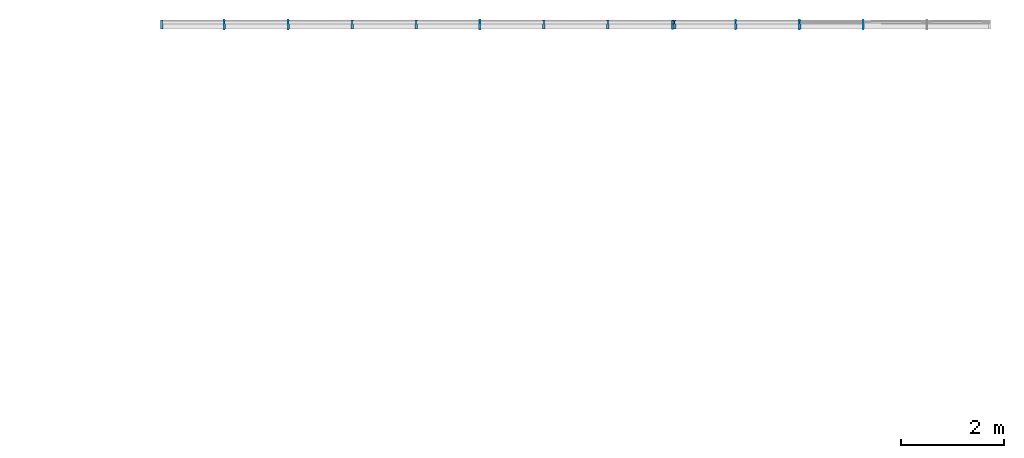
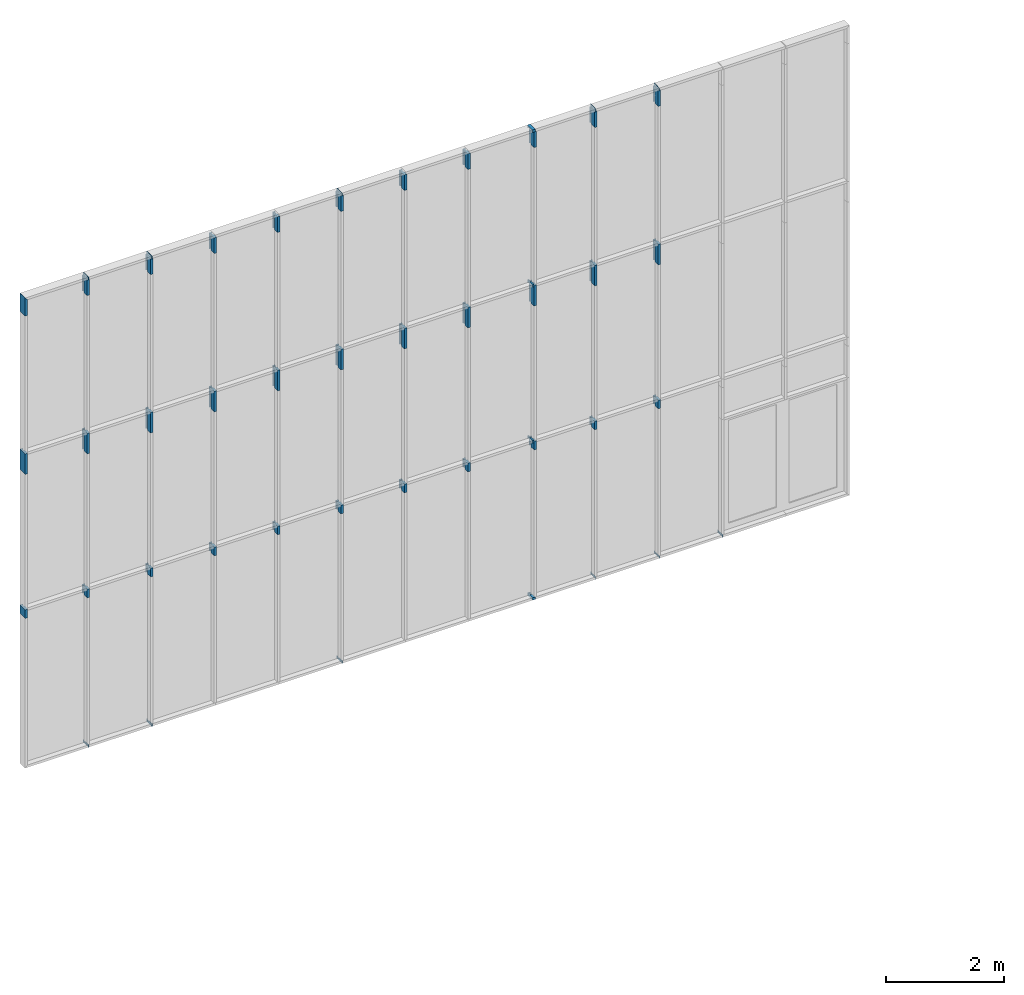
# One storey, part 19 of 387: 48 members, 1 element without a shape of its own.
"""IFC2X3 building model written with IfcOpenShell, lengths in millimetres."""

import ifcopenshell
import ifcopenshell.guid

model = None  # the IFC model being written
_history = None  # IfcOwnerHistory: only IFC2X3 demands one
_inside = {}  # id of a spatial element -> (the spatial element, [elements in it])
_under = {}  # id of a project, library or spatial element -> (it, [spatial elements below it])
_declared = {}  # id of a project -> (the project, [libraries it declares])
_typed = {}  # id of a type object -> (the type object, [elements of that type])
_made_of = {}  # id of a material, layer set ... -> (it, [elements and type objects made of it])


def new_model(schema):
    """Start an empty IFC model of exactly this schema.

    Asked for "IFC4X3", IfcOpenShell would pick the latest addendum, in which some entities
    have other attributes; the version numbers below select the first issue.
    IFC2X3 requires an IfcOwnerHistory on every rooted entity: one is made here for all.
    """
    global model, _history
    if schema == "IFC4X3":
        model = ifcopenshell.file(schema_version=(4, 3, 0, 0))
    else:
        model = ifcopenshell.file(schema=schema)
    _inside.clear()
    _under.clear()
    _declared.clear()
    _typed.clear()
    _made_of.clear()
    _history = None
    if model.schema == "IFC2X3":
        org = make("IfcOrganization", Name="unknown")
        user = make(
            "IfcPersonAndOrganization",
            ThePerson=make("IfcPerson", FamilyName="unknown"),
            TheOrganization=org,
        )
        app = make(
            "IfcApplication",
            ApplicationDeveloper=org,
            Version="unknown",
            ApplicationFullName="unknown",
            ApplicationIdentifier="unknown",
        )
        _history = make(
            "IfcOwnerHistory",
            OwningUser=user,
            OwningApplication=app,
            ChangeAction="ADDED",
            CreationDate=0,
        )
    return model


def make(cls, **values):
    """One entity of the class cls with the attributes given. An attribute that is None is left unset."""
    return model.create_entity(
        cls, **{name: value for name, value in values.items() if value is not None}
    )


def entity(cls, *values):
    """Any entity or typed value of the class cls, its attributes in the order of the schema. None: left unset."""
    e = model.create_entity(cls)
    for i, value in enumerate(values):
        if value is not None:
            e[i] = value
    return e


def rooted(cls, **values):
    """An entity with a GlobalId (a new one), such as an element, a storey or a relation."""
    return make(cls, GlobalId=ifcopenshell.guid.new(), OwnerHistory=_history, **values)


def si_unit(unit_type, name, prefix=None):
    """IfcSIUnit, for example si_unit("LENGTHUNIT", "METRE", prefix="MILLI")."""
    return make("IfcSIUnit", UnitType=unit_type, Prefix=prefix, Name=name)


def converted_unit(unit_type, name, factor, base, dimensions=None, offset=None):
    """IfcConversionBasedUnit, such as the inch: factor (a typed value) times the base unit."""
    return make(
        "IfcConversionBasedUnit"
        if offset is None
        else "IfcConversionBasedUnitWithOffset",
        ConversionOffset=offset,
        Dimensions=None
        if dimensions is None
        else entity("IfcDimensionalExponents", *dimensions),
        UnitType=unit_type,
        Name=name,
        ConversionFactor=make(
            "IfcMeasureWithUnit", ValueComponent=factor, UnitComponent=base
        ),
    )


def derived_unit(unit_type, elements):
    """IfcDerivedUnit: a product of units, each with its exponent."""
    return make(
        "IfcDerivedUnit",
        Elements=[
            make("IfcDerivedUnitElement", Unit=unit, Exponent=power)
            for unit, power in elements
        ],
        UnitType=unit_type,
    )


def money_unit(currency):
    """IfcMonetaryUnit."""
    return make("IfcMonetaryUnit", Currency=currency)


def assignment(units):
    """IfcUnitAssignment: the units of a project."""
    return None if units is None else make("IfcUnitAssignment", Units=units)


def point(xyz):
    """IfcCartesianPoint."""
    return None if xyz is None else make("IfcCartesianPoint", Coordinates=xyz)


def direction(xyz):
    """IfcDirection."""
    return None if xyz is None else make("IfcDirection", DirectionRatios=xyz)


def frame(location, z_axis=None, x_axis=None):
    """IfcAxis2Placement3D, a coordinate frame: its origin and axes. An axis left out is left unset."""
    return make(
        "IfcAxis2Placement3D",
        Location=point(location),
        Axis=direction(z_axis),
        RefDirection=direction(x_axis),
    )


def origin_with_axes():
    """The frame at (0, 0, 0) with the z axis (0, 0, 1) and the x axis (1, 0, 0) written out."""
    return frame((0.0, 0.0, 0.0), z_axis=(0.0, 0.0, 1.0), x_axis=(1.0, 0.0, 0.0))


def place(relative_to, where):
    """IfcLocalPlacement: puts the frame where relative to a parent placement (None: the world)."""
    return make(
        "IfcLocalPlacement", PlacementRelTo=relative_to, RelativePlacement=where
    )


def context(
    kind, dimensions, precision=None, world=None, true_north=None, identifier=None
):
    """IfcGeometricRepresentationContext, for example the 3D "Model" context."""
    return make(
        "IfcGeometricRepresentationContext",
        ContextIdentifier=identifier,
        ContextType=kind,
        CoordinateSpaceDimension=dimensions,
        Precision=precision,
        WorldCoordinateSystem=world,
        TrueNorth=true_north,
    )


def subcontext(parent, identifier, kind, view, scale=None):
    """IfcGeometricRepresentationSubContext, for example "Body" below "Model"."""
    return make(
        "IfcGeometricRepresentationSubContext",
        ContextIdentifier=identifier,
        ContextType=kind,
        ParentContext=parent,
        TargetScale=scale,
        TargetView=view,
    )


def project(units=None, contexts=None):
    """IfcProject with its units and contexts."""
    return rooted(
        "IfcProject",
        Name="project",
        RepresentationContexts=contexts,
        UnitsInContext=assignment(units),
    )


def spatial(cls, under=None, at=None, **own):
    """A site, building, storey or space (cls), placed at a placement, below another one or the project."""
    s = rooted(cls, ObjectPlacement=at, **own)
    if under is not None:
        _under.setdefault(under.id(), (under, []))[1].append(s)
    return s


def polyline(points):
    """IfcPolyline through the points."""
    return make("IfcPolyline", Points=[point(p) for p in points])


def outline(outer, holes=None, kind="AREA"):
    """IfcArbitraryClosedProfileDef: a profile drawn as a closed curve; with holes, ...WithVoids."""
    if holes is None:
        return make("IfcArbitraryClosedProfileDef", ProfileType=kind, OuterCurve=outer)
    return make(
        "IfcArbitraryProfileDefWithVoids",
        ProfileType=kind,
        OuterCurve=outer,
        InnerCurves=holes,
    )


def extrude(swept, where, along, depth):
    """IfcExtrudedAreaSolid: the profile swept, set in the frame where, extruded along a direction by depth."""
    return make(
        "IfcExtrudedAreaSolid",
        SweptArea=swept,
        Position=where,
        ExtrudedDirection=direction(along),
        Depth=depth,
    )


def clip(a, b, op="DIFFERENCE"):
    """IfcBooleanClippingResult: the solid a cut by the half space b."""
    return make(
        "IfcBooleanClippingResult", Operator=op, FirstOperand=a, SecondOperand=b
    )


def halfspace(plane, agree):
    """IfcHalfSpaceSolid: all space on one side of the plane z = 0 of the frame plane."""
    return make(
        "IfcHalfSpaceSolid",
        BaseSurface=make("IfcPlane", Position=plane),
        AgreementFlag=agree,
    )


def shape(context_of_items, identifier, shape_type, items):
    """IfcShapeRepresentation: the items that make up one representation, for example the "Body"."""
    return make(
        "IfcShapeRepresentation",
        ContextOfItems=context_of_items,
        RepresentationIdentifier=identifier,
        RepresentationType=shape_type,
        Items=items,
    )


def material(Name=None, Category=None):
    """IfcMaterial."""
    return make("IfcMaterial", Name=Name, Category=Category)


def made_of(thing, what):
    """Note that an element or type object is made of a material, layer set ...; save() writes the relation."""
    if what is not None:
        _made_of.setdefault(what.id(), (what, []))[1].append(thing)
    return thing


def type_object(cls, material=None, **own):
    """A type object (cls), such as IfcWallType, which elements share."""
    return made_of(rooted(cls, **own), material)


def element(
    cls,
    number,
    at=None,
    inside=None,
    cuts=None,
    type_object=None,
    material=None,
    context=None,
    identifier="Body",
    shape_type=None,
    held_by="IfcProductDefinitionShape",
    body=None,
    shapes=None,
    **own,
):
    """One element of the class cls, such as IfcWall. Its Tag is "e" and its number.

    at: its placement. inside: the storey or other place that contains it. cuts: it is an
    opening in that element (IfcRelVoidsElement). A single representation is given by context,
    identifier, shape_type and body (its items); several are given by shapes. held_by: the class
    of the entity that holds the representations. save() writes the other relations.
    """
    e = rooted(cls, Tag="e%d" % number, ObjectPlacement=at, **own)
    if body is not None:
        shapes = [shape(context, identifier, shape_type, body)]
    if shapes is not None:
        e.Representation = make(held_by, Representations=shapes)
    if inside is not None:
        _inside.setdefault(inside.id(), (inside, []))[1].append(e)
    if cuts is not None:
        rooted(
            "IfcRelVoidsElement", RelatingBuildingElement=cuts, RelatedOpeningElement=e
        )
    if type_object is not None:
        _typed.setdefault(type_object.id(), (type_object, []))[1].append(e)
    return made_of(e, material)


def aggregate(whole, parts):
    """IfcRelAggregates: a whole, such as a stair, and the parts it consists of."""
    return rooted("IfcRelAggregates", RelatingObject=whole, RelatedObjects=parts)


def save(model, path):
    """Write the relations noted so far, then the file.

    IfcRelAggregates (storeys below a building ...), IfcRelContainedInSpatialStructure (elements
    in a storey), IfcRelDefinesByType, IfcRelAssociatesMaterial and IfcRelDeclares: one each for
    every whole, place, type object, material and project.
    """
    for whole, parts in _under.values():
        aggregate(whole, parts)
    for where, things in _inside.values():
        rooted(
            "IfcRelContainedInSpatialStructure",
            RelatedElements=things,
            RelatingStructure=where,
        )
    for kind, things in _typed.values():
        rooted("IfcRelDefinesByType", RelatedObjects=things, RelatingType=kind)
    for what, things in _made_of.values():
        rooted("IfcRelAssociatesMaterial", RelatedObjects=things, RelatingMaterial=what)
    for by, libraries in _declared.values():
        rooted("IfcRelDeclares", RelatingContext=by, RelatedDefinitions=libraries)
    model.write(path)


model = new_model("IFC2X3")

# Units and contexts
model_context = context("Model", 3, precision=0.01, world=origin_with_axes(), true_north=direction((0.0, 1.0)))
body_context = subcontext(model_context, "Body", "Model", "MODEL_VIEW")
ifc_project = project(units=[si_unit("LENGTHUNIT", "METRE", prefix="MILLI"), si_unit("AREAUNIT", "SQUARE_METRE"), si_unit("VOLUMEUNIT", "CUBIC_METRE"), converted_unit("PLANEANGLEUNIT", "DEGREE", entity("IfcPlaneAngleMeasure", 0.0174532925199), si_unit("PLANEANGLEUNIT", "RADIAN"), dimensions=[0, 0, 0, 0, 0, 0, 0]), si_unit("SOLIDANGLEUNIT", "STERADIAN"), money_unit("EUR"), converted_unit("TIMEUNIT", "Year", entity("IfcTimeMeasure", 31556926.0), si_unit("TIMEUNIT", "SECOND"), dimensions=[0, 0, 1, 0, 0, 0, 0]), si_unit("MASSUNIT", "GRAM", prefix="KILO"), si_unit("THERMODYNAMICTEMPERATUREUNIT", "DEGREE_CELSIUS"), si_unit("LUMINOUSINTENSITYUNIT", "LUMEN"), si_unit("ENERGYUNIT", "JOULE", prefix="MEGA"), derived_unit("THERMALCONDUCTANCEUNIT", [(si_unit("POWERUNIT", "WATT"), 1), (si_unit("LENGTHUNIT", "METRE"), -1), (si_unit("THERMODYNAMICTEMPERATUREUNIT", "KELVIN"), -1)]), derived_unit("SPECIFICHEATCAPACITYUNIT", [(si_unit("ENERGYUNIT", "JOULE"), 1), (si_unit("MASSUNIT", "GRAM", prefix="KILO"), -1), (si_unit("THERMODYNAMICTEMPERATUREUNIT", "KELVIN"), -1)]), derived_unit("MASSDENSITYUNIT", [(si_unit("MASSUNIT", "GRAM", prefix="KILO"), 1), (si_unit("VOLUMEUNIT", "CUBIC_METRE"), -1)])], contexts=[model_context])

# Site, building, storey
site_placement = place(None, origin_with_axes())
site = spatial("IfcSite", under=ifc_project, at=site_placement, Name="Puškini 31, Narva", CompositionType="ELEMENT")
building_placement = place(site_placement, origin_with_axes())
building = spatial("IfcBuilding", under=site, at=building_placement, Name="Narva Riigigümnaasium", CompositionType="ELEMENT")
storey_placement = place(building_placement, frame((0.0, 0.0, 2640.0), z_axis=(0.0, 0.0, 1.0), x_axis=(1.0, 0.0, 0.0)))
storey = spatial("IfcBuildingStorey", under=building, at=storey_placement, Name="2.korrus +2.64", CompositionType="ELEMENT", Elevation=2640.0)

# Curtain wall, members
curtain_wall_type = type_object("IfcCurtainWallType", Name="Curtain Wall Type", PredefinedType="NOTDEFINED")
curtain_wall_placement = place(storey_placement, frame((50893.5555569, 254360.0, -2029.99998222), z_axis=(0.0, 0.0, 1.0), x_axis=(1.0, 0.0, 0.0)))
curtain_wall = element("IfcCurtainWall", 1, at=curtain_wall_placement, inside=storey, type_object=curtain_wall_type, Name="G-KLF-06")
ifc_material = material(Name="ET-04_Alumiinium")
member_type_1 = type_object("IfcMemberType", Name="Mullion Frame 50 x 176", PredefinedType="MULLION")
member_1_placement = place(curtain_wall_placement, frame((-3268.55557739, 0.0, 9389.99997589), z_axis=(7.38349911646e-08, 0.0, 1.0), x_axis=(1.0, 0.0, -7.38349911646e-08)))
member_1 = element("IfcMember", 2, at=member_1_placement, type_object=member_type_1, material=ifc_material, Name="klaasfassaadi raam", ObjectType="MULLION", context=body_context, shape_type="SweptSolid", body=[
    extrude(outline(polyline([(-10.0, -29.0), (-25.0, -29.0), (-25.0, -130.0), (25.0, -130.0), (25.0, -29.0), (10.0, -29.0), (10.0, 29.0), (25.0, 29.0), (25.0, 46.0), (-25.0, 46.0), (-25.0, 29.0), (-10.0, 29.0), (-10.0, -29.0)])), frame((0.0, 0.0, -1.84587634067e-06), z_axis=(0.0, 0.0, 1.0), x_axis=(1.0, 0.0, 7.38349911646e-08)), (0.0, 0.0, 1.0), 325.000033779),
])
member_2_placement = place(curtain_wall_placement, frame((-3268.55555892, 0.0, 6099.99997589), z_axis=(-4.33065213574e-08, 0.0, 1.0), x_axis=(1.0, 0.0, 4.33065213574e-08)))
member_2 = element("IfcMember", 3, at=member_2_placement, type_object=member_type_1, material=ifc_material, Name="klaasfassaadi raam", ObjectType="MULLION", context=body_context, shape_type="SweptSolid", body=[
    extrude(outline(polyline([(-10.0, -29.0), (-25.0, -29.0), (-25.0, -130.0), (25.0, -130.0), (25.0, -29.0), (10.0, -29.0), (10.0, 29.0), (25.0, 29.0), (25.0, 46.0), (-25.0, 46.0), (-25.0, 29.0), (-10.0, 29.0), (-10.0, -29.0)])), frame((0.0, 0.0, -1.08266284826e-06), z_axis=(0.0, 0.0, 1.0), x_axis=(1.0, 0.0, -4.33065213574e-08)), (0.0, 0.0, 1.0), 426.666705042),
])
member_3_placement = place(curtain_wall_placement, frame((-3268.55556541, 0.0, 3109.99997589), z_axis=(3.64074463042e-08, 0.0, 1.0), x_axis=(1.0, 0.0, -3.64074463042e-08)))
member_3 = element("IfcMember", 4, at=member_3_placement, type_object=member_type_1, material=ifc_material, Name="klaasfassaadi raam", ObjectType="MULLION", context=body_context, shape_type="SweptSolid", body=[
    extrude(outline(polyline([(-10.0, -29.0), (-25.0, -29.0), (-25.0, -130.0), (25.0, -130.0), (25.0, -29.0), (10.0, -29.0), (10.0, 29.0), (25.0, 29.0), (25.0, 46.0), (-25.0, 46.0), (-25.0, 29.0), (-10.0, 29.0), (-10.0, -29.0)])), frame((0.0, 0.0, -9.90373560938e-07), z_axis=(0.0, 0.0, 1.0), x_axis=(1.0, 0.0, 3.64074463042e-08)), (0.0, 0.0, 1.0), 178.333366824),
])
member_4_placement = place(curtain_wall_placement, frame((-8307.55555633, 0.0, 9389.99997589), z_axis=(0.0, 0.0, 1.0), x_axis=(1.0, 0.0, 0.0)))
member_4 = element("IfcMember", 5, at=member_4_placement, type_object=member_type_1, material=ifc_material, Name="klaasfassaadi raam", ObjectType="MULLION", context=body_context, shape_type="SweptSolid", body=[
    extrude(outline(polyline([(-10.0, -29.0), (-25.0, -29.0), (-25.0, -130.0), (25.0, -130.0), (25.0, -29.0), (10.0, -29.0), (10.0, 29.0), (25.0, 29.0), (25.0, 46.0), (-25.0, 46.0), (-25.0, 29.0), (-10.0, 29.0), (-10.0, -29.0)])), frame((0.0, 0.0, -1.84587456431e-06), z_axis=(0.0, 0.0, 1.0), x_axis=(1.0, 0.0, 0.0)), (0.0, 0.0, 1.0), 325.000033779),
])
member_5_placement = place(curtain_wall_placement, frame((-9553.55555647, 0.0, 9389.99997589), z_axis=(0.0, 0.0, 1.0), x_axis=(1.0, 0.0, 0.0)))
member_5 = element("IfcMember", 6, at=member_5_placement, type_object=member_type_1, material=ifc_material, Name="klaasfassaadi raam", ObjectType="MULLION", context=body_context, shape_type="SweptSolid", body=[
    extrude(outline(polyline([(-10.0, -29.0), (-25.0, -29.0), (-25.0, -130.0), (25.0, -130.0), (25.0, -29.0), (10.0, -29.0), (10.0, 29.0), (25.0, 29.0), (25.0, 46.0), (-25.0, 46.0), (-25.0, 29.0), (-10.0, 29.0), (-10.0, -29.0)])), frame((0.0, 0.0, -1.84587456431e-06), z_axis=(0.0, 0.0, 1.0), x_axis=(1.0, 0.0, 0.0)), (0.0, 0.0, 1.0), 325.000033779),
])
member_6_placement = place(curtain_wall_placement, frame((-8307.55555633, 0.0, 3109.99997589), z_axis=(0.0, 0.0, 1.0), x_axis=(1.0, 0.0, 0.0)))
member_6 = element("IfcMember", 7, at=member_6_placement, type_object=member_type_1, material=ifc_material, Name="klaasfassaadi raam", ObjectType="MULLION", context=body_context, shape_type="SweptSolid", body=[
    extrude(outline(polyline([(-10.0, -29.0), (-25.0, -29.0), (-25.0, -130.0), (25.0, -130.0), (25.0, -29.0), (10.0, -29.0), (10.0, 29.0), (25.0, 29.0), (25.0, 46.0), (-25.0, 46.0), (-25.0, 29.0), (-10.0, 29.0), (-10.0, -29.0)])), frame((0.0, 0.0, -9.90373116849e-07), z_axis=(0.0, 0.0, 1.0), x_axis=(1.0, 0.0, 0.0)), (0.0, 0.0, 1.0), 178.333366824),
])
member_7_placement = place(curtain_wall_placement, frame((-9553.55555647, 0.0, 3109.99997589), z_axis=(0.0, 0.0, 1.0), x_axis=(1.0, 0.0, 0.0)))
member_7 = element("IfcMember", 8, at=member_7_placement, type_object=member_type_1, material=ifc_material, Name="klaasfassaadi raam", ObjectType="MULLION", context=body_context, shape_type="SweptSolid", body=[
    extrude(outline(polyline([(-10.0, -29.0), (-25.0, -29.0), (-25.0, -130.0), (25.0, -130.0), (25.0, -29.0), (10.0, -29.0), (10.0, 29.0), (25.0, 29.0), (25.0, 46.0), (-25.0, 46.0), (-25.0, 29.0), (-10.0, 29.0), (-10.0, -29.0)])), frame((0.0, 0.0, -9.90373116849e-07), z_axis=(0.0, 0.0, 1.0), x_axis=(1.0, 0.0, 0.0)), (0.0, 0.0, 1.0), 178.333366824),
])
member_8_placement = place(curtain_wall_placement, frame((-8307.55555633, 0.0, 6099.99997589), z_axis=(0.0, 0.0, 1.0), x_axis=(1.0, 0.0, 0.0)))
member_8 = element("IfcMember", 9, at=member_8_placement, type_object=member_type_1, material=ifc_material, Name="klaasfassaadi raam", ObjectType="MULLION", context=body_context, shape_type="SweptSolid", body=[
    extrude(outline(polyline([(-10.0, -29.0), (-25.0, -29.0), (-25.0, -130.0), (25.0, -130.0), (25.0, -29.0), (10.0, -29.0), (10.0, 29.0), (25.0, 29.0), (25.0, 46.0), (-25.0, 46.0), (-25.0, 29.0), (-10.0, 29.0), (-10.0, -29.0)])), frame((0.0, 0.0, -1.08266284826e-06), z_axis=(0.0, 0.0, 1.0), x_axis=(1.0, 0.0, 0.0)), (0.0, 0.0, 1.0), 426.666705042),
])
member_9_placement = place(curtain_wall_placement, frame((-9553.55555647, 0.0, 6099.99997589), z_axis=(0.0, 0.0, 1.0), x_axis=(1.0, 0.0, 0.0)))
member_9 = element("IfcMember", 10, at=member_9_placement, type_object=member_type_1, material=ifc_material, Name="klaasfassaadi raam", ObjectType="MULLION", context=body_context, shape_type="SweptSolid", body=[
    extrude(outline(polyline([(-10.0, -29.0), (-25.0, -29.0), (-25.0, -130.0), (25.0, -130.0), (25.0, -29.0), (10.0, -29.0), (10.0, 29.0), (25.0, 29.0), (25.0, 46.0), (-25.0, 46.0), (-25.0, 29.0), (-10.0, 29.0), (-10.0, -29.0)])), frame((0.0, 0.0, -1.08266284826e-06), z_axis=(0.0, 0.0, 1.0), x_axis=(1.0, 0.0, 0.0)), (0.0, 0.0, 1.0), 426.666705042),
])
member_10_placement = place(curtain_wall_placement, frame((-2076.88887256, 0.0, 3109.99997589), z_axis=(0.0, 0.0, 1.0), x_axis=(1.0, 0.0, 0.0)))
member_10 = element("IfcMember", 11, at=member_10_placement, type_object=member_type_1, material=ifc_material, Name="klaasfassaadi raam", ObjectType="MULLION", context=body_context, shape_type="SweptSolid", body=[
    extrude(outline(polyline([(-10.0, -29.0), (-25.0, -29.0), (-25.0, -130.0), (25.0, -130.0), (25.0, -29.0), (10.0, -29.0), (10.0, 29.0), (25.0, 29.0), (25.0, 46.0), (-25.0, 46.0), (-25.0, 29.0), (-10.0, 29.0), (-10.0, -29.0)])), frame((0.0, 0.0, -9.90373116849e-07), z_axis=(0.0, 0.0, 1.0), x_axis=(1.0, 0.0, 0.0)), (0.0, 0.0, 1.0), 178.333366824),
])
member_11_placement = place(curtain_wall_placement, frame((-830.222212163, 0.0, 3109.99997589), z_axis=(0.0, 0.0, 1.0), x_axis=(1.0, 0.0, 0.0)))
member_11 = element("IfcMember", 12, at=member_11_placement, type_object=member_type_1, material=ifc_material, Name="klaasfassaadi raam", ObjectType="MULLION", context=body_context, shape_type="SweptSolid", body=[
    extrude(outline(polyline([(-10.0, -29.0), (-25.0, -29.0), (-25.0, -130.0), (25.0, -130.0), (25.0, -29.0), (10.0, -29.0), (10.0, 29.0), (25.0, 29.0), (25.0, 46.0), (-25.0, 46.0), (-25.0, 29.0), (-10.0, 29.0), (-10.0, -29.0)])), frame((0.0, 0.0, -9.90373116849e-07), z_axis=(0.0, 0.0, 1.0), x_axis=(1.0, 0.0, 0.0)), (0.0, 0.0, 1.0), 178.333366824),
])
member_12_placement = place(curtain_wall_placement, frame((-4569.55555591, 0.0, 3109.99997589), z_axis=(0.0, 0.0, 1.0), x_axis=(1.0, 0.0, 0.0)))
member_12 = element("IfcMember", 13, at=member_12_placement, type_object=member_type_1, material=ifc_material, Name="klaasfassaadi raam", ObjectType="MULLION", context=body_context, shape_type="SweptSolid", body=[
    extrude(outline(polyline([(-10.0, -29.0), (-25.0, -29.0), (-25.0, -130.0), (25.0, -130.0), (25.0, -29.0), (10.0, -29.0), (10.0, 29.0), (25.0, 29.0), (25.0, 46.0), (-25.0, 46.0), (-25.0, 29.0), (-10.0, 29.0), (-10.0, -29.0)])), frame((0.0, 0.0, -9.90373116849e-07), z_axis=(0.0, 0.0, 1.0), x_axis=(1.0, 0.0, 0.0)), (0.0, 0.0, 1.0), 178.333366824),
])
member_13_placement = place(curtain_wall_placement, frame((-5815.55555605, 0.0, 3109.99997589), z_axis=(0.0, 0.0, 1.0), x_axis=(1.0, 0.0, 0.0)))
member_13 = element("IfcMember", 14, at=member_13_placement, type_object=member_type_1, material=ifc_material, Name="klaasfassaadi raam", ObjectType="MULLION", context=body_context, shape_type="SweptSolid", body=[
    extrude(outline(polyline([(-10.0, -29.0), (-25.0, -29.0), (-25.0, -130.0), (25.0, -130.0), (25.0, -29.0), (10.0, -29.0), (10.0, 29.0), (25.0, 29.0), (25.0, 46.0), (-25.0, 46.0), (-25.0, 29.0), (-10.0, 29.0), (-10.0, -29.0)])), frame((0.0, 0.0, -9.90373116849e-07), z_axis=(0.0, 0.0, 1.0), x_axis=(1.0, 0.0, 0.0)), (0.0, 0.0, 1.0), 178.333366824),
])
member_14_placement = place(curtain_wall_placement, frame((-7063.55556296, 0.0, 3109.99997589), z_axis=(0.0, 0.0, 1.0), x_axis=(1.0, 0.0, 0.0)))
member_14 = element("IfcMember", 15, at=member_14_placement, type_object=member_type_1, material=ifc_material, Name="klaasfassaadi raam", ObjectType="MULLION", context=body_context, shape_type="SweptSolid", body=[
    extrude(outline(polyline([(-10.0, -29.0), (-25.0, -29.0), (-25.0, -130.0), (25.0, -130.0), (25.0, -29.0), (10.0, -29.0), (10.0, 29.0), (25.0, 29.0), (25.0, 46.0), (-25.0, 46.0), (-25.0, 29.0), (-10.0, 29.0), (-10.0, -29.0)])), frame((0.0, 0.0, -9.90373116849e-07), z_axis=(0.0, 0.0, 1.0), x_axis=(1.0, 0.0, 0.0)), (0.0, 0.0, 1.0), 178.333366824),
])
member_15_placement = place(curtain_wall_placement, frame((-10803.5555516, 0.0, 3109.99997589), z_axis=(0.0, 0.0, 1.0), x_axis=(1.0, 0.0, 0.0)))
member_15 = element("IfcMember", 16, at=member_15_placement, type_object=member_type_1, material=ifc_material, Name="klaasfassaadi raam", ObjectType="MULLION", context=body_context, shape_type="SweptSolid", body=[
    extrude(outline(polyline([(-10.0, -29.0), (-25.0, -29.0), (-25.0, -130.0), (25.0, -130.0), (25.0, -29.0), (10.0, -29.0), (10.0, 29.0), (25.0, 29.0), (25.0, 46.0), (-25.0, 46.0), (-25.0, 29.0), (-10.0, 29.0), (-10.0, -29.0)])), frame((0.0, 0.0, -9.90373116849e-07), z_axis=(0.0, 0.0, 1.0), x_axis=(1.0, 0.0, 0.0)), (0.0, 0.0, 1.0), 178.333366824),
])
member_16_placement = place(curtain_wall_placement, frame((-12048.5555706, 0.0, 3109.99997589), z_axis=(0.0, 0.0, 1.0), x_axis=(1.0, 0.0, 0.0)))
member_16 = element("IfcMember", 17, at=member_16_placement, type_object=member_type_1, material=ifc_material, Name="klaasfassaadi raam", ObjectType="MULLION", context=body_context, shape_type="SweptSolid", body=[
    extrude(outline(polyline([(-10.0, -29.0), (-25.0, -29.0), (-25.0, -130.0), (25.0, -130.0), (25.0, -29.0), (10.0, -29.0), (10.0, 29.0), (25.0, 29.0), (25.0, 46.0), (-25.0, 46.0), (-25.0, 29.0), (-10.0, 29.0), (-10.0, -29.0)])), frame((0.0, 0.0, -9.90373116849e-07), z_axis=(0.0, 0.0, 1.0), x_axis=(1.0, 0.0, 0.0)), (0.0, 0.0, 1.0), 178.333366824),
])
member_17_placement = place(curtain_wall_placement, frame((-830.222216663, 0.0, 9389.99997589), z_axis=(8.82348112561e-09, 0.0, 1.0), x_axis=(1.0, 0.0, -8.82348112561e-09)))
member_17 = element("IfcMember", 18, at=member_17_placement, type_object=member_type_1, material=ifc_material, Name="klaasfassaadi raam", ObjectType="MULLION", context=body_context, shape_type="SweptSolid", body=[
    extrude(outline(polyline([(-10.0, -29.0), (-25.0, -29.0), (-25.0, -130.0), (25.0, -130.0), (25.0, -29.0), (10.0, -29.0), (10.0, 29.0), (25.0, 29.0), (25.0, 46.0), (-25.0, 46.0), (-25.0, 29.0), (-10.0, 29.0), (-10.0, -29.0)])), frame((0.0, 0.0, -1.84587456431e-06), z_axis=(0.0, 0.0, 1.0), x_axis=(1.0, 0.0, 8.82348112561e-09)), (0.0, 0.0, 1.0), 325.000033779),
])
member_18_placement = place(curtain_wall_placement, frame((-830.222184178, 0.0, 6099.99997589), z_axis=(-7.61356746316e-08, 0.0, 1.0), x_axis=(1.0, 0.0, 7.61356746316e-08)))
member_18 = element("IfcMember", 19, at=member_18_placement, type_object=member_type_1, material=ifc_material, Name="klaasfassaadi raam", ObjectType="MULLION", context=body_context, shape_type="SweptSolid", body=[
    extrude(outline(polyline([(-10.0, -29.0), (-25.0, -29.0), (-25.0, -130.0), (25.0, -130.0), (25.0, -29.0), (10.0, -29.0), (10.0, 29.0), (25.0, 29.0), (25.0, 46.0), (-25.0, 46.0), (-25.0, 29.0), (-10.0, 29.0), (-10.0, -29.0)])), frame((0.0, 0.0, -1.08266373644e-06), z_axis=(0.0, 0.0, 1.0), x_axis=(1.0, 0.0, -7.61356746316e-08)), (0.0, 0.0, 1.0), 426.666705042),
])
member_19_placement = place(curtain_wall_placement, frame((-2076.88885694, 0.0, 6099.99997589), z_axis=(0.0, 0.0, 1.0), x_axis=(1.0, 0.0, 0.0)))
member_19 = element("IfcMember", 20, at=member_19_placement, type_object=member_type_1, material=ifc_material, Name="klaasfassaadi raam", ObjectType="MULLION", context=body_context, shape_type="SweptSolid", body=[
    extrude(outline(polyline([(-10.0, -29.0), (-25.0, -29.0), (-25.0, -130.0), (25.0, -130.0), (25.0, -29.0), (10.0, -29.0), (10.0, 29.0), (25.0, 29.0), (25.0, 46.0), (-25.0, 46.0), (-25.0, 29.0), (-10.0, 29.0), (-10.0, -29.0)])), frame((0.0, 0.0, -1.08266284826e-06), z_axis=(0.0, 0.0, 1.0), x_axis=(1.0, 0.0, 0.0)), (0.0, 0.0, 1.0), 426.666705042),
])
member_20_placement = place(curtain_wall_placement, frame((-2076.88885694, 0.0, 9389.99997589), z_axis=(-4.85561183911e-08, 0.0, 1.0), x_axis=(1.0, 0.0, 4.85561183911e-08)))
member_20 = element("IfcMember", 21, at=member_20_placement, type_object=member_type_1, material=ifc_material, Name="klaasfassaadi raam", ObjectType="MULLION", context=body_context, shape_type="SweptSolid", body=[
    extrude(outline(polyline([(-10.0, -29.0), (-25.0, -29.0), (-25.0, -130.0), (25.0, -130.0), (25.0, -29.0), (10.0, -29.0), (10.0, 29.0), (25.0, 29.0), (25.0, 46.0), (-25.0, 46.0), (-25.0, 29.0), (-10.0, 29.0), (-10.0, -29.0)])), frame((0.0, 0.0, -1.84587634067e-06), z_axis=(0.0, 0.0, 1.0), x_axis=(1.0, 0.0, -4.85561183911e-08)), (0.0, 0.0, 1.0), 325.000033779),
])
member_21_placement = place(curtain_wall_placement, frame((-4569.55555591, 0.0, 6099.99997589), z_axis=(0.0, 0.0, 1.0), x_axis=(1.0, 0.0, 0.0)))
member_21 = element("IfcMember", 22, at=member_21_placement, type_object=member_type_1, material=ifc_material, Name="klaasfassaadi raam", ObjectType="MULLION", context=body_context, shape_type="SweptSolid", body=[
    extrude(outline(polyline([(-10.0, -29.0), (-25.0, -29.0), (-25.0, -130.0), (25.0, -130.0), (25.0, -29.0), (10.0, -29.0), (10.0, 29.0), (25.0, 29.0), (25.0, 46.0), (-25.0, 46.0), (-25.0, 29.0), (-10.0, 29.0), (-10.0, -29.0)])), frame((0.0, 0.0, -1.08266284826e-06), z_axis=(0.0, 0.0, 1.0), x_axis=(1.0, 0.0, 0.0)), (0.0, 0.0, 1.0), 426.666705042),
])
member_22_placement = place(curtain_wall_placement, frame((-4569.55555591, 0.0, 9389.99997589), z_axis=(0.0, 0.0, 1.0), x_axis=(1.0, 0.0, 0.0)))
member_22 = element("IfcMember", 23, at=member_22_placement, type_object=member_type_1, material=ifc_material, Name="klaasfassaadi raam", ObjectType="MULLION", context=body_context, shape_type="SweptSolid", body=[
    extrude(outline(polyline([(-10.0, -29.0), (-25.0, -29.0), (-25.0, -130.0), (25.0, -130.0), (25.0, -29.0), (10.0, -29.0), (10.0, 29.0), (25.0, 29.0), (25.0, 46.0), (-25.0, 46.0), (-25.0, 29.0), (-10.0, 29.0), (-10.0, -29.0)])), frame((0.0, 0.0, -1.84587456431e-06), z_axis=(0.0, 0.0, 1.0), x_axis=(1.0, 0.0, 0.0)), (0.0, 0.0, 1.0), 325.000033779),
])
member_23_placement = place(curtain_wall_placement, frame((-5815.55555605, 0.0, 9389.99997589), z_axis=(0.0, 0.0, 1.0), x_axis=(1.0, 0.0, 0.0)))
member_23 = element("IfcMember", 24, at=member_23_placement, type_object=member_type_1, material=ifc_material, Name="klaasfassaadi raam", ObjectType="MULLION", context=body_context, shape_type="SweptSolid", body=[
    extrude(outline(polyline([(-10.0, -29.0), (-25.0, -29.0), (-25.0, -130.0), (25.0, -130.0), (25.0, -29.0), (10.0, -29.0), (10.0, 29.0), (25.0, 29.0), (25.0, 46.0), (-25.0, 46.0), (-25.0, 29.0), (-10.0, 29.0), (-10.0, -29.0)])), frame((0.0, 0.0, -1.84587456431e-06), z_axis=(0.0, 0.0, 1.0), x_axis=(1.0, 0.0, 0.0)), (0.0, 0.0, 1.0), 325.000033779),
])
member_24_placement = place(curtain_wall_placement, frame((-5815.55555605, 0.0, 6099.99997589), z_axis=(0.0, 0.0, 1.0), x_axis=(1.0, 0.0, 0.0)))
member_24 = element("IfcMember", 25, at=member_24_placement, type_object=member_type_1, material=ifc_material, Name="klaasfassaadi raam", ObjectType="MULLION", context=body_context, shape_type="SweptSolid", body=[
    extrude(outline(polyline([(-10.0, -29.0), (-25.0, -29.0), (-25.0, -130.0), (25.0, -130.0), (25.0, -29.0), (10.0, -29.0), (10.0, 29.0), (25.0, 29.0), (25.0, 46.0), (-25.0, 46.0), (-25.0, 29.0), (-10.0, 29.0), (-10.0, -29.0)])), frame((0.0, 0.0, -1.08266284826e-06), z_axis=(0.0, 0.0, 1.0), x_axis=(1.0, 0.0, 0.0)), (0.0, 0.0, 1.0), 426.666705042),
])
member_25_placement = place(curtain_wall_placement, frame((-7063.55557467, 0.0, 6099.99997589), z_axis=(0.0, 0.0, 1.0), x_axis=(1.0, 0.0, 0.0)))
member_25 = element("IfcMember", 26, at=member_25_placement, type_object=member_type_1, material=ifc_material, Name="klaasfassaadi raam", ObjectType="MULLION", context=body_context, shape_type="SweptSolid", body=[
    extrude(outline(polyline([(-10.0, -29.0), (-25.0, -29.0), (-25.0, -130.0), (25.0, -130.0), (25.0, -29.0), (10.0, -29.0), (10.0, 29.0), (25.0, 29.0), (25.0, 46.0), (-25.0, 46.0), (-25.0, 29.0), (-10.0, 29.0), (-10.0, -29.0)])), frame((0.0, 0.0, -1.08266284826e-06), z_axis=(0.0, 0.0, 1.0), x_axis=(1.0, 0.0, 0.0)), (0.0, 0.0, 1.0), 426.666705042),
])
member_26_placement = place(curtain_wall_placement, frame((-7063.55556013, 0.0, 9389.99997589), z_axis=(0.0, 0.0, 1.0), x_axis=(1.0, 0.0, 0.0)))
member_26 = element("IfcMember", 27, at=member_26_placement, type_object=member_type_1, material=ifc_material, Name="klaasfassaadi raam", ObjectType="MULLION", context=body_context, shape_type="SweptSolid", body=[
    extrude(outline(polyline([(-10.0, -29.0), (-25.0, -29.0), (-25.0, -130.0), (25.0, -130.0), (25.0, -29.0), (10.0, -29.0), (10.0, 29.0), (25.0, 29.0), (25.0, 46.0), (-25.0, 46.0), (-25.0, 29.0), (-10.0, 29.0), (-10.0, -29.0)])), frame((0.0, 0.0, -1.84587456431e-06), z_axis=(0.0, 0.0, 1.0), x_axis=(1.0, 0.0, 0.0)), (0.0, 0.0, 1.0), 325.000033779),
])
member_27_placement = place(curtain_wall_placement, frame((-10803.5555445, 0.0, 6099.99997589), z_axis=(0.0, 0.0, 1.0), x_axis=(1.0, 0.0, 0.0)))
member_27 = element("IfcMember", 28, at=member_27_placement, type_object=member_type_1, material=ifc_material, Name="klaasfassaadi raam", ObjectType="MULLION", context=body_context, shape_type="SweptSolid", body=[
    extrude(outline(polyline([(-10.0, -29.0), (-25.0, -29.0), (-25.0, -130.0), (25.0, -130.0), (25.0, -29.0), (10.0, -29.0), (10.0, 29.0), (25.0, 29.0), (25.0, 46.0), (-25.0, 46.0), (-25.0, 29.0), (-10.0, 29.0), (-10.0, -29.0)])), frame((0.0, 0.0, -1.08266284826e-06), z_axis=(0.0, 0.0, 1.0), x_axis=(1.0, 0.0, 0.0)), (0.0, 0.0, 1.0), 426.666705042),
])
member_28_placement = place(curtain_wall_placement, frame((-10803.5555467, 0.0, 9389.99997589), z_axis=(0.0, 0.0, 1.0), x_axis=(1.0, 0.0, 0.0)))
member_28 = element("IfcMember", 29, at=member_28_placement, type_object=member_type_1, material=ifc_material, Name="klaasfassaadi raam", ObjectType="MULLION", context=body_context, shape_type="SweptSolid", body=[
    extrude(outline(polyline([(-10.0, -29.0), (-25.0, -29.0), (-25.0, -130.0), (25.0, -130.0), (25.0, -29.0), (10.0, -29.0), (10.0, 29.0), (25.0, 29.0), (25.0, 46.0), (-25.0, 46.0), (-25.0, 29.0), (-10.0, 29.0), (-10.0, -29.0)])), frame((0.0, 0.0, -1.84587456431e-06), z_axis=(0.0, 0.0, 1.0), x_axis=(1.0, 0.0, 0.0)), (0.0, 0.0, 1.0), 325.000033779),
])
member_29_placement = place(curtain_wall_placement, frame((-12048.5555793, 0.0, 6099.99997589), z_axis=(0.0, 0.0, 1.0), x_axis=(1.0, 0.0, 0.0)))
member_29 = element("IfcMember", 30, at=member_29_placement, type_object=member_type_1, material=ifc_material, Name="klaasfassaadi raam", ObjectType="MULLION", context=body_context, shape_type="SweptSolid", body=[
    extrude(outline(polyline([(-10.0, -29.0), (-25.0, -29.0), (-25.0, -130.0), (25.0, -130.0), (25.0, -29.0), (10.0, -29.0), (10.0, 29.0), (25.0, 29.0), (25.0, 46.0), (-25.0, 46.0), (-25.0, 29.0), (-10.0, 29.0), (-10.0, -29.0)])), frame((0.0, 0.0, -1.08266284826e-06), z_axis=(0.0, 0.0, 1.0), x_axis=(1.0, 0.0, 0.0)), (0.0, 0.0, 1.0), 426.666705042),
])
member_30_placement = place(curtain_wall_placement, frame((-12048.5555719, 0.0, 9389.99997589), z_axis=(0.0, 0.0, 1.0), x_axis=(1.0, 0.0, 0.0)))
member_30 = element("IfcMember", 31, at=member_30_placement, type_object=member_type_1, material=ifc_material, Name="klaasfassaadi raam", ObjectType="MULLION", context=body_context, shape_type="SweptSolid", body=[
    extrude(outline(polyline([(-10.0, -29.0), (-25.0, -29.0), (-25.0, -130.0), (25.0, -130.0), (25.0, -29.0), (10.0, -29.0), (10.0, 29.0), (25.0, 29.0), (25.0, 46.0), (-25.0, 46.0), (-25.0, 29.0), (-10.0, 29.0), (-10.0, -29.0)])), frame((0.0, 0.0, -1.84587456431e-06), z_axis=(0.0, 0.0, 1.0), x_axis=(1.0, 0.0, 0.0)), (0.0, 0.0, 1.0), 325.000033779),
])
member_type_2 = type_object("IfcMemberType", Name="Boundary Frame 50 x 176", PredefinedType="MULLION")
member_31_placement = place(curtain_wall_placement, frame((-12045.5555567, 0.0, 0.0), z_axis=(-1.0, 0.0, 0.0), x_axis=(0.0, 0.0, 1.0)))
member_31 = element("IfcMember", 32, at=member_31_placement, type_object=member_type_2, material=ifc_material, Name="klaasfassaadi raam", ObjectType="MULLION", context=body_context, shape_type="SweptSolid", body=[
    extrude(outline(polyline([(-29.0, -35.0), (29.0, -35.0), (29.0, -50.0), (46.0, -50.0), (46.0, 0.0), (-130.0, 0.0), (-130.0, -50.0), (-29.0, -50.0), (-29.0, -35.0)])), frame((0.0, 0.0, 0.0), z_axis=(0.0, 0.0, 1.0), x_axis=(0.0, 1.0, 0.0)), (0.0, 0.0, 1.0), 3.0000138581),
])
member_32_placement = place(curtain_wall_placement, frame((-10799.5555566, 0.0, 0.0), z_axis=(-1.0, 0.0, 0.0), x_axis=(0.0, 0.0, 1.0)))
member_32 = element("IfcMember", 33, at=member_32_placement, type_object=member_type_2, material=ifc_material, Name="klaasfassaadi raam", ObjectType="MULLION", context=body_context, shape_type="SweptSolid", body=[
    extrude(outline(polyline([(-29.0, -35.0), (29.0, -35.0), (29.0, -50.0), (46.0, -50.0), (46.0, 0.0), (-130.0, 0.0), (-130.0, -50.0), (-29.0, -50.0), (-29.0, -35.0)])), frame((0.0, 0.0, 0.0), z_axis=(0.0, 0.0, 1.0), x_axis=(0.0, 1.0, 0.0)), (0.0, 0.0, 1.0), 3.9999949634),
])
member_33_placement = place(curtain_wall_placement, frame((-7061.55555619, 0.0, 0.0), z_axis=(-1.0, 0.0, 0.0), x_axis=(0.0, 0.0, 1.0)))
member_33 = element("IfcMember", 34, at=member_33_placement, type_object=member_type_2, material=ifc_material, Name="klaasfassaadi raam", ObjectType="MULLION", context=body_context, shape_type="SweptSolid", body=[
    extrude(outline(polyline([(-29.0, -35.0), (29.0, -35.0), (29.0, -50.0), (46.0, -50.0), (46.0, 0.0), (-130.0, 0.0), (-130.0, -50.0), (-29.0, -50.0), (-29.0, -35.0)])), frame((0.0, 0.0, 0.0), z_axis=(0.0, 0.0, 1.0), x_axis=(0.0, 1.0, 0.0)), (0.0, 0.0, 1.0), 2.00000676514),
])
member_34_placement = place(curtain_wall_placement, frame((-3268.55555543, 0.0, 0.0), z_axis=(-1.0, 0.0, 0.0), x_axis=(0.0, 0.0, 1.0)))
member_34 = element("IfcMember", 35, at=member_34_placement, type_object=member_type_2, material=ifc_material, Name="klaasfassaadi raam", ObjectType="MULLION", context=body_context, shape_type="SweptSolid", body=[
    extrude(outline(polyline([(-29.0, -35.0), (29.0, -35.0), (29.0, -50.0), (46.0, -50.0), (46.0, 0.0), (-130.0, 0.0), (-130.0, -50.0), (-29.0, -50.0), (-29.0, -35.0)])), frame((0.0, 0.0, 0.0), z_axis=(0.0, 0.0, 1.0), x_axis=(0.0, 1.0, 0.0)), (0.0, 0.0, 1.0), 55.0000003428),
])
member_35_placement = place(curtain_wall_placement, frame((-2076.88887256, 0.0, 0.0), z_axis=(-1.0, 0.0, 0.0), x_axis=(0.0, 0.0, 1.0)))
member_35 = element("IfcMember", 36, at=member_35_placement, type_object=member_type_2, material=ifc_material, Name="klaasfassaadi raam", ObjectType="MULLION", context=body_context, shape_type="SweptSolid", body=[
    extrude(outline(polyline([(-29.0, -35.0), (29.0, -35.0), (29.0, -50.0), (46.0, -50.0), (46.0, 0.0), (-130.0, 0.0), (-130.0, -50.0), (-29.0, -50.0), (-29.0, -35.0)])), frame((0.0, 0.0, 0.0), z_axis=(0.0, 0.0, 1.0), x_axis=(0.0, 1.0, 0.0)), (0.0, 0.0, 1.0), 0.666683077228),
])
member_36_placement = place(curtain_wall_placement, frame((-830.222212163, 0.0, 0.0), z_axis=(-1.0, 0.0, 0.0), x_axis=(0.0, 0.0, 1.0)))
member_36 = element("IfcMember", 37, at=member_36_placement, type_object=member_type_2, material=ifc_material, Name="klaasfassaadi raam", ObjectType="MULLION", context=body_context, shape_type="SweptSolid", body=[
    extrude(outline(polyline([(-29.0, -35.0), (29.0, -35.0), (29.0, -50.0), (46.0, -50.0), (46.0, 0.0), (-130.0, 0.0), (-130.0, -50.0), (-29.0, -50.0), (-29.0, -35.0)])), frame((0.0, 0.0, 0.0), z_axis=(0.0, 0.0, 1.0), x_axis=(0.0, 1.0, 0.0)), (0.0, 0.0, 1.0), 1.33334333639),
])
member_37_placement = place(curtain_wall_placement, frame((416.444428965, 0.0, 0.0), z_axis=(-1.0, 0.0, 0.0), x_axis=(0.0, 0.0, 1.0)))
member_37 = element("IfcMember", 38, at=member_37_placement, type_object=member_type_2, material=ifc_material, Name="klaasfassaadi raam", ObjectType="MULLION", context=body_context, shape_type="SweptSolid", body=[
    extrude(outline(polyline([(-29.0, -35.0), (29.0, -35.0), (29.0, -50.0), (46.0, -50.0), (46.0, 0.0), (-130.0, 0.0), (-130.0, -50.0), (-29.0, -50.0), (-29.0, -35.0)])), frame((0.0, 0.0, 0.0), z_axis=(0.0, 0.0, 1.0), x_axis=(0.0, 1.0, 0.0)), (0.0, 0.0, 1.0), 2.00000676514),
])
member_38_placement = place(curtain_wall_placement, frame((-3323.55555578, 0.0, 9765.00000442), z_axis=(1.0, 0.0, 0.0), x_axis=(0.0, 0.0, -1.0)))
member_38 = element("IfcMember", 39, at=member_38_placement, type_object=member_type_2, material=ifc_material, Name="klaasfassaadi raam", ObjectType="MULLION", context=body_context, shape_type="SweptSolid", body=[
    extrude(outline(polyline([(29.0, 35.0), (-29.0, 35.0), (-29.0, 50.0), (-46.0, 50.0), (-46.0, 0.0), (130.0, 0.0), (130.0, 50.0), (29.0, 50.0), (29.0, 35.0)])), frame((0.0, 0.0, 0.0), z_axis=(0.0, 0.0, 1.0), x_axis=(0.0, -1.0, 0.0)), (0.0, 0.0, 1.0), 55.0000003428),
])
member_39_placement = place(curtain_wall_placement, frame((-7063.55556013, 0.0, 9765.00000442), z_axis=(1.0, 0.0, 0.0), x_axis=(0.0, 0.0, -1.0)))
member_39 = element("IfcMember", 40, at=member_39_placement, type_object=member_type_2, material=ifc_material, Name="klaasfassaadi raam", ObjectType="MULLION", context=body_context, shape_type="SweptSolid", body=[
    extrude(outline(polyline([(29.0, 35.0), (-29.0, 35.0), (-29.0, 50.0), (-46.0, 50.0), (-46.0, 0.0), (130.0, 0.0), (130.0, 50.0), (29.0, 50.0), (29.0, 35.0)])), frame((0.0, 0.0, 0.0), z_axis=(0.0, 0.0, 1.0), x_axis=(0.0, -1.0, 0.0)), (0.0, 0.0, 1.0), 2.00000676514),
])
member_40_placement = place(curtain_wall_placement, frame((-10803.5555467, 0.0, 9765.00000442), z_axis=(1.0, 0.0, 0.0), x_axis=(0.0, 0.0, -1.0)))
member_40 = element("IfcMember", 41, at=member_40_placement, type_object=member_type_2, material=ifc_material, Name="klaasfassaadi raam", ObjectType="MULLION", context=body_context, shape_type="SweptSolid", body=[
    extrude(outline(polyline([(29.0, 35.0), (-29.0, 35.0), (-29.0, 50.0), (-46.0, 50.0), (-46.0, 0.0), (130.0, 0.0), (130.0, 50.0), (29.0, 50.0), (29.0, 35.0)])), frame((0.0, 0.0, 0.0), z_axis=(0.0, 0.0, 1.0), x_axis=(0.0, -1.0, 0.0)), (0.0, 0.0, 1.0), 3.9999949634),
])
member_41_placement = place(curtain_wall_placement, frame((-12048.5555719, 0.0, 9765.00000442), z_axis=(1.0, 0.0, 0.0), x_axis=(0.0, 0.0, -1.0)))
member_41 = element("IfcMember", 42, at=member_41_placement, type_object=member_type_2, material=ifc_material, Name="klaasfassaadi raam", ObjectType="MULLION", context=body_context, shape_type="SweptSolid", body=[
    extrude(outline(polyline([(29.0, 35.0), (-29.0, 35.0), (-29.0, 50.0), (-46.0, 50.0), (-46.0, 0.0), (130.0, 0.0), (130.0, 50.0), (29.0, 50.0), (29.0, 35.0)])), frame((0.0, 0.0, 0.0), z_axis=(0.0, 0.0, 1.0), x_axis=(0.0, -1.0, 0.0)), (0.0, 0.0, 1.0), 3.0000138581),
])
member_42_placement = place(curtain_wall_placement, frame((-13291.5555569, 0.0, 9389.99997589), z_axis=(0.0, 0.0, 1.0), x_axis=(1.0, 0.0, 0.0)))
member_42 = element("IfcMember", 43, at=member_42_placement, type_object=member_type_2, material=ifc_material, Name="klaasfassaadi raam", ObjectType="MULLION", context=body_context, shape_type="Clipping", body=[
    clip(extrude(outline(polyline([(35.0, -29.0), (35.0, 29.0), (50.0, 29.0), (50.0, 46.0), (0.0, 46.0), (0.0, -130.0), (50.0, -130.0), (50.0, -29.0), (35.0, -29.0)])), origin_with_axes(), (0.0, 0.0, 1.0), 375.000028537), halfspace(frame((187.500014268, 0.0, 187.500014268), z_axis=(-0.707106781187, 0.0, -0.707106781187), x_axis=(0.0, 1.0, 0.0)), True)),
])
member_43_placement = place(curtain_wall_placement, frame((-13291.5555569, 0.0, 3109.99997589), z_axis=(0.0, 0.0, 1.0), x_axis=(1.0, 0.0, 0.0)))
member_43 = element("IfcMember", 44, at=member_43_placement, type_object=member_type_2, material=ifc_material, Name="klaasfassaadi raam", ObjectType="MULLION", context=body_context, shape_type="SweptSolid", body=[
    extrude(outline(polyline([(35.0, -29.0), (35.0, 29.0), (50.0, 29.0), (50.0, 46.0), (0.0, 46.0), (0.0, -130.0), (50.0, -130.0), (50.0, -29.0), (35.0, -29.0)])), origin_with_axes(), (0.0, 0.0, 1.0), 178.333362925),
])
member_44_placement = place(curtain_wall_placement, frame((-13291.5555569, 0.0, 6099.99997589), z_axis=(0.0, 0.0, 1.0), x_axis=(1.0, 0.0, 0.0)))
member_44 = element("IfcMember", 45, at=member_44_placement, type_object=member_type_2, material=ifc_material, Name="klaasfassaadi raam", ObjectType="MULLION", context=body_context, shape_type="SweptSolid", body=[
    extrude(outline(polyline([(35.0, -29.0), (35.0, 29.0), (50.0, 29.0), (50.0, 46.0), (0.0, 46.0), (0.0, -130.0), (50.0, -130.0), (50.0, -29.0), (35.0, -29.0)])), origin_with_axes(), (0.0, 0.0, 1.0), 426.666682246),
])
member_45_placement = place(curtain_wall_placement, frame((-831.555555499, 0.0, 9765.00000442), z_axis=(1.0, 0.0, 0.0), x_axis=(0.0, 0.0, -1.0)))
member_45 = element("IfcMember", 46, at=member_45_placement, type_object=member_type_2, material=ifc_material, Name="klaasfassaadi raam", ObjectType="MULLION", context=body_context, shape_type="SweptSolid", body=[
    extrude(outline(polyline([(29.0, 35.0), (-29.0, 35.0), (-29.0, 50.0), (-46.0, 50.0), (-46.0, 0.0), (130.0, 0.0), (130.0, 50.0), (29.0, 50.0), (29.0, 35.0)])), frame((0.0, 0.0, 0.0), z_axis=(0.0, 0.0, 1.0), x_axis=(0.0, -1.0, 0.0)), (0.0, 0.0, 1.0), 1.33334333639),
])
member_46_placement = place(curtain_wall_placement, frame((-2077.55555564, 0.0, 9765.00000442), z_axis=(1.0, 0.0, 0.0), x_axis=(0.0, 0.0, -1.0)))
member_46 = element("IfcMember", 47, at=member_46_placement, type_object=member_type_2, material=ifc_material, Name="klaasfassaadi raam", ObjectType="MULLION", context=body_context, shape_type="SweptSolid", body=[
    extrude(outline(polyline([(29.0, 35.0), (-29.0, 35.0), (-29.0, 50.0), (-46.0, 50.0), (-46.0, 0.0), (130.0, 0.0), (130.0, 50.0), (29.0, 50.0), (29.0, 35.0)])), frame((0.0, 0.0, 0.0), z_axis=(0.0, 0.0, 1.0), x_axis=(0.0, -1.0, 0.0)), (0.0, 0.0, 1.0), 0.666683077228),
])
member_type_3 = type_object("IfcMemberType", Name="Transom Frame 50 x 176", PredefinedType="MULLION")
member_47_placement = place(curtain_wall_placement, frame((-3268.55555892, 0.0, 3288.33334081), z_axis=(-1.0, 0.0, 0.0), x_axis=(0.0, 0.0, 1.0)))
member_47 = element("IfcMember", 48, at=member_47_placement, type_object=member_type_3, material=ifc_material, Name="klaasfassaadi raam", ObjectType="MULLION", context=body_context, shape_type="SweptSolid", body=[
    extrude(outline(polyline([(-29.0, 10.0), (-29.0, 25.0), (-130.0, 25.0), (-130.0, -25.0), (-29.0, -25.0), (-29.0, -10.0), (29.0, -10.0), (29.0, -25.0), (46.0, -25.0), (46.0, 25.0), (29.0, 25.0), (29.0, 10.0), (-29.0, 10.0)])), frame((0.0, 0.0, 25.0), z_axis=(0.0, 0.0, 1.0), x_axis=(0.0, 1.0, 0.0)), (0.0, 0.0, 1.0), 29.9999968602),
])
member_48_placement = place(curtain_wall_placement, frame((-3268.55557739, 0.0, 6526.66667876), z_axis=(-1.0, 0.0, 0.0), x_axis=(0.0, 0.0, 1.0)))
member_48 = element("IfcMember", 49, at=member_48_placement, type_object=member_type_3, material=ifc_material, Name="klaasfassaadi raam", ObjectType="MULLION", context=body_context, shape_type="SweptSolid", body=[
    extrude(outline(polyline([(-29.0, 10.0), (-29.0, 25.0), (-130.0, 25.0), (-130.0, -25.0), (-29.0, -25.0), (-29.0, -10.0), (29.0, -10.0), (29.0, -25.0), (46.0, -25.0), (46.0, 25.0), (29.0, 25.0), (29.0, 10.0), (-29.0, 10.0)])), frame((0.0, 0.0, 25.0), z_axis=(0.0, 0.0, 1.0), x_axis=(0.0, 1.0, 0.0)), (0.0, 0.0, 1.0), 29.9999968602),
])
aggregate(curtain_wall, [member_31, member_32, member_33, member_34, member_35, member_36, member_37, member_1, member_38, member_2, member_3, member_39, member_4, member_5, member_40, member_41, member_42, member_47, member_6, member_7, member_43, member_48, member_8, member_9, member_44, member_10, member_11, member_12, member_13, member_14, member_15, member_16, member_17, member_45, member_18, member_19, member_20, member_46, member_21, member_22, member_23, member_24, member_25, member_26, member_27, member_28, member_29, member_30])

save(model, "model.ifc")
